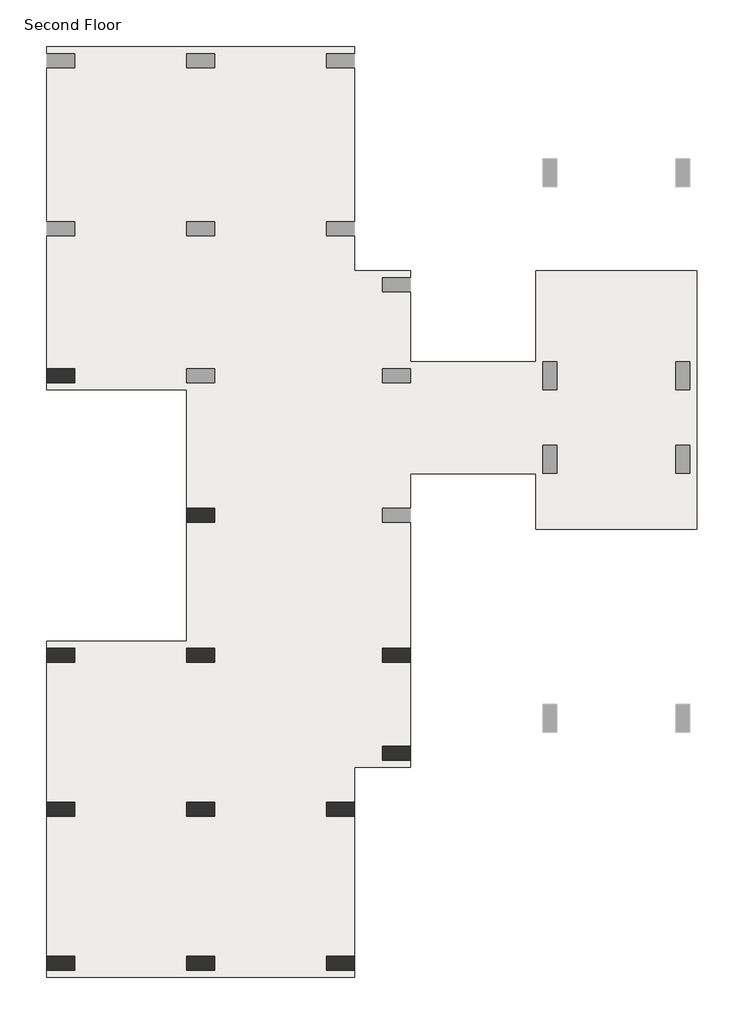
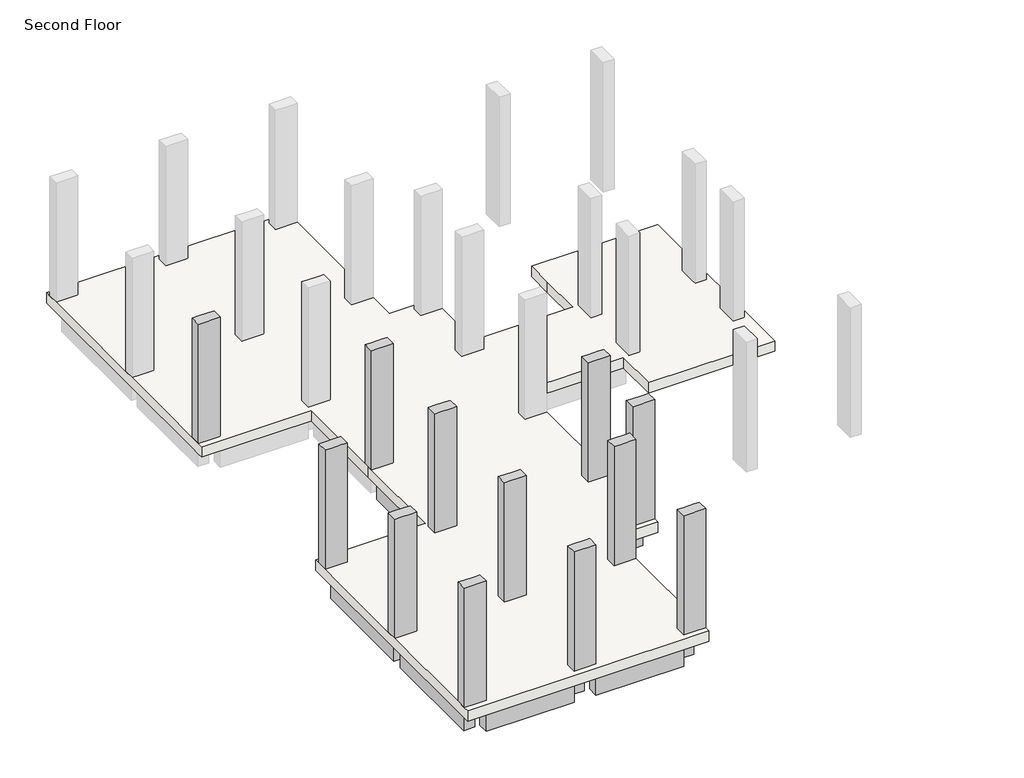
# One storey, part 1 of 2: 16 beams, 12 columns, 1 slab.
"""IFC4 building model written with IfcOpenShell, lengths in millimetres."""

from ifc_helpers import new_model, si_unit, frame, origin, place, context, project, spatial, polyline, outline, extrude, faceted_brep, element, save

model = new_model("IFC4")

# Units and contexts
model_context = context("Model", 3, world=origin())
ifc_project = project(units=[si_unit("LENGTHUNIT", "METRE", prefix="MILLI")], contexts=[model_context])

# Site, building, storey
site = spatial("IfcSite", under=ifc_project)
building = spatial("IfcBuilding", under=site)
storey = spatial("IfcBuildingStorey", under=building, Name="Second Floor", Elevation=3810.0)

# Beams
placement = place(None, origin())
element("IfcBeam", 1, ObjectType="Concrete-Rectangular Beam : 12 x 24", at=placement, inside=storey, context=model_context, shape_type="SweptSolid", body=[
    extrude(outline(polyline([(-12629.5554735, -5012.6132912), (-12629.5554735, -5317.4132912), (-15067.9554735, -5317.4132912), (-15067.9554735, -5012.6132912), (-12629.5554735, -5012.6132912)])), frame((0.0, 0.0, 2895.6), z_axis=(0.0, 0.0, 1.0), x_axis=(1.0, 0.0, 0.0)), (0.0, 0.0, 1.0), 609.6),
])
element("IfcBeam", 2, ObjectType="Concrete-Rectangular Beam : 12 x 24", at=placement, inside=storey, context=model_context, shape_type="SweptSolid", body=[
    extrude(outline(polyline([(-15525.1554735, -1964.6132912), (-15220.3554735, -1964.6132912), (-15220.3554735, -5012.6132912), (-15525.1554735, -5012.6132912), (-15525.1554735, -1964.6132912)])), frame((0.0, 0.0, 2895.6), z_axis=(0.0, 0.0, 1.0), x_axis=(1.0, 0.0, 0.0)), (0.0, 0.0, 1.0), 609.6),
])
element("IfcBeam", 3, ObjectType="Concrete-Rectangular Beam : 12 x 24", at=placement, inside=storey, context=model_context, shape_type="SweptSolid", body=[
    extrude(outline(polyline([(-15067.9554735, -1964.6132912), (-15067.9554735, -1659.8132912), (-12629.5554735, -1659.8132912), (-12629.5554735, -1964.6132912), (-15067.9554735, -1964.6132912)])), frame((0.0, 0.0, 2895.6), z_axis=(0.0, 0.0, 1.0), x_axis=(1.0, 0.0, 0.0)), (0.0, 0.0, 1.0), 609.6),
])
element("IfcBeam", 4, ObjectType="Concrete-Rectangular Beam : 12 x 24", at=placement, inside=storey, context=model_context, shape_type="SweptSolid", body=[
    extrude(outline(polyline([(-12172.3554735, -5012.6132912), (-12477.1554735, -5012.6132912), (-12477.1554735, -1964.6132912), (-12172.3554735, -1964.6132912), (-12172.3554735, -5012.6132912)])), frame((0.0, 0.0, 2895.6), z_axis=(0.0, 0.0, 1.0), x_axis=(1.0, 0.0, 0.0)), (0.0, 0.0, 1.0), 609.6),
])
element("IfcBeam", 5, ObjectType="Concrete-Rectangular Beam : 12 x 24", at=placement, inside=storey, context=model_context, shape_type="SweptSolid", body=[
    extrude(outline(polyline([(-9581.5554735, -5012.6132912), (-9581.5554735, -5317.4132912), (-12019.9554735, -5317.4132912), (-12019.9554735, -5012.6132912), (-9581.5554735, -5012.6132912)])), frame((0.0, 0.0, 2895.6), z_axis=(0.0, 0.0, 1.0), x_axis=(1.0, 0.0, 0.0)), (0.0, 0.0, 1.0), 609.6),
])
element("IfcBeam", 6, ObjectType="Concrete-Rectangular Beam : 12 x 24", at=placement, inside=storey, context=model_context, shape_type="SweptSolid", body=[
    extrude(outline(polyline([(-9124.3554735, -5012.6132912), (-9429.1554735, -5012.6132912), (-9429.1554735, -1964.6132912), (-9124.3554735, -1964.6132912), (-9124.3554735, -5012.6132912)])), frame((0.0, 0.0, 2895.6), z_axis=(0.0, 0.0, 1.0), x_axis=(1.0, 0.0, 0.0)), (0.0, 0.0, 1.0), 609.6),
])
element("IfcBeam", 7, ObjectType="Concrete-Rectangular Beam : 12 x 24", at=placement, inside=storey, context=model_context, shape_type="SweptSolid", body=[
    extrude(outline(polyline([(-9581.5554735, -1659.8132912), (-9581.5554735, -1964.6132912), (-12019.9554735, -1964.6132912), (-12019.9554735, -1659.8132912), (-9581.5554735, -1659.8132912)])), frame((0.0, 0.0, 2895.6), z_axis=(0.0, 0.0, 1.0), x_axis=(1.0, 0.0, 0.0)), (0.0, 0.0, 1.0), 609.6),
])
element("IfcBeam", 8, ObjectType="Concrete-Rectangular Beam : 12 x 24", at=placement, inside=storey, context=model_context, shape_type="Brep", body=[
    faceted_brep([(-8362.3554735, -745.4132912, 3505.2), (-8362.3554735, -440.6132912, 3505.2), (-9429.1554735, -440.6132912, 3505.2), (-9429.1554735, -745.4132912, 3505.2), (-9124.3554735, -745.4132912, 3505.2), (-8362.3554735, -440.6132912, 2895.6), (-9429.1554735, -440.6132912, 2895.6), (-8362.3554735, -745.4132912, 2895.6), (-9124.3554735, -745.4132912, 2895.6), (-9429.1554735, -745.4132912, 2895.6)], [[[0, 1, 2, 3, 4]], [[1, 5, 6, 2]], [[5, 7, 8, 9, 6]], [[7, 0, 4, 3, 9, 8]], [[0, 7, 5, 1]], [[3, 2, 6, 9]]]),
])
element("IfcBeam", 9, ObjectType="Concrete-Rectangular Beam : 12 x 24", at=placement, inside=storey, context=model_context, shape_type="SweptSolid", body=[
    extrude(outline(polyline([(-9124.3554735, -1659.8132912), (-9429.1554735, -1659.8132912), (-9429.1554735, -745.4132912), (-9124.3554735, -745.4132912), (-9124.3554735, -1659.8132912)])), frame((0.0, 0.0, 2895.6), z_axis=(0.0, 0.0, 1.0), x_axis=(1.0, 0.0, 0.0)), (0.0, 0.0, 1.0), 609.6),
])
element("IfcBeam", 10, ObjectType="Concrete-Rectangular Beam : 12 x 24", at=placement, inside=storey, context=model_context, shape_type="SweptSolid", body=[
    extrude(outline(polyline([(-8209.9554735, 1388.1867088), (-7905.1554735, 1388.1867088), (-7905.1554735, -440.6132912), (-8209.9554735, -440.6132912), (-8209.9554735, 1388.1867088)])), frame((0.0, 0.0, 2895.6), z_axis=(0.0, 0.0, 1.0), x_axis=(1.0, 0.0, 0.0)), (0.0, 0.0, 1.0), 609.6),
])
element("IfcBeam", 11, ObjectType="Concrete-Rectangular Beam : 12 x 24", at=placement, inside=storey, context=model_context, shape_type="SweptSolid", body=[
    extrude(outline(polyline([(-7905.1554735, 1692.9867088), (-8209.9554735, 1692.9867088), (-8209.9554735, 4436.1867088), (-7905.1554735, 4436.1867088), (-7905.1554735, 1692.9867088)])), frame((0.0, 0.0, 2895.6), z_axis=(0.0, 0.0, 1.0), x_axis=(1.0, 0.0, 0.0)), (0.0, 0.0, 1.0), 609.6),
])
element("IfcBeam", 12, ObjectType="Concrete-Rectangular Beam : 12 x 24", at=placement, inside=storey, context=model_context, shape_type="SweptSolid", body=[
    extrude(outline(polyline([(-15525.1554735, 1388.1867088), (-15220.3554735, 1388.1867088), (-15220.3554735, -1659.8132912), (-15525.1554735, -1659.8132912), (-15525.1554735, 1388.1867088)])), frame((0.0, 0.0, 2895.6), z_axis=(0.0, 0.0, 1.0), x_axis=(1.0, 0.0, 0.0)), (0.0, 0.0, 1.0), 609.6),
])
element("IfcBeam", 13, ObjectType="Concrete-Rectangular Beam : 12 x 24", at=placement, inside=storey, context=model_context, shape_type="SweptSolid", body=[
    extrude(outline(polyline([(-12629.5554735, 1692.9867088), (-12629.5554735, 1388.1867088), (-15067.9554735, 1388.1867088), (-15067.9554735, 1692.9867088), (-12629.5554735, 1692.9867088)])), frame((0.0, 0.0, 2895.6), z_axis=(0.0, 0.0, 1.0), x_axis=(1.0, 0.0, 0.0)), (0.0, 0.0, 1.0), 609.6),
])
element("IfcBeam", 14, ObjectType="Concrete-Rectangular Beam : 12 x 24", at=placement, inside=storey, context=model_context, shape_type="SweptSolid", body=[
    extrude(outline(polyline([(-12172.3554735, -1659.8132912), (-12477.1554735, -1659.8132912), (-12477.1554735, 1388.1867088), (-12172.3554735, 1388.1867088), (-12172.3554735, -1659.8132912)])), frame((0.0, 0.0, 2895.6), z_axis=(0.0, 0.0, 1.0), x_axis=(1.0, 0.0, 0.0)), (0.0, 0.0, 1.0), 609.6),
])
element("IfcBeam", 15, ObjectType="Concrete-Rectangular Beam : 12 x 24", at=placement, inside=storey, context=model_context, shape_type="SweptSolid", body=[
    extrude(outline(polyline([(-12019.9554735, 1388.1867088), (-12019.9554735, 1692.9867088), (-8362.3554735, 1692.9867088), (-8362.3554735, 1388.1867088), (-12019.9554735, 1388.1867088)])), frame((0.0, 0.0, 2895.6), z_axis=(0.0, 0.0, 1.0), x_axis=(1.0, 0.0, 0.0)), (0.0, 0.0, 1.0), 609.6),
])
element("IfcBeam", 16, ObjectType="Concrete-Rectangular Beam : 12 x 24", at=placement, inside=storey, context=model_context, shape_type="SweptSolid", body=[
    extrude(outline(polyline([(-12172.3554735, 1692.9867088), (-12477.1554735, 1692.9867088), (-12477.1554735, 4436.1867088), (-12172.3554735, 4436.1867088), (-12172.3554735, 1692.9867088)])), frame((0.0, 0.0, 2895.6), z_axis=(0.0, 0.0, 1.0), x_axis=(1.0, 0.0, 0.0)), (0.0, 0.0, 1.0), 609.6),
])

# Columns
element("IfcColumn", 17, ObjectType="Concrete-Rectangular-Column : 12 x 24", at=placement, inside=storey, context=model_context, shape_type="Brep", body=[
    faceted_brep([(-15677.5554735, 7788.9867088, 3810.0), (-15067.9554735, 7788.9867088, 3810.0), (-15067.9554735, 7484.1867088, 3810.0), (-15677.5554735, 7484.1867088, 3810.0), (-15677.5554735, 7788.9867088, 7315.2), (-15525.1554735, 7788.9867088, 7315.2), (-15220.3554735, 7788.9867088, 7315.2), (-15067.9554735, 7788.9867088, 7315.2), (-15067.9554735, 7788.9867088, 6705.6), (-15067.9554735, 7484.1867088, 7315.2), (-15067.9554735, 7484.1867088, 6705.6), (-15677.5554735, 7484.1867088, 7315.2)], [[[0, 1, 2, 3]], [[4, 5, 6, 7, 8, 1, 0]], [[7, 9, 10, 2, 1, 8]], [[9, 11, 3, 2, 10]], [[11, 4, 0, 3]], [[4, 11, 9, 7, 6, 5]]]),
])
element("IfcColumn", 18, ObjectType="Concrete-Rectangular-Column : 12 x 24", at=placement, inside=storey, context=model_context, shape_type="Brep", body=[
    faceted_brep([(-12629.5554735, 4740.9867088, 3810.0), (-12019.9554735, 4740.9867088, 3810.0), (-12019.9554735, 4436.1867088, 3810.0), (-12629.5554735, 4436.1867088, 3810.0), (-12629.5554735, 4588.5867088, 3810.0), (-12629.5554735, 4740.9867088, 7315.2), (-12477.1554735, 4740.9867088, 7315.2), (-12172.3554735, 4740.9867088, 7315.2), (-12019.9554735, 4740.9867088, 7315.2), (-12019.9554735, 4740.9867088, 6705.6), (-12019.9554735, 4436.1867088, 7315.2), (-12019.9554735, 4436.1867088, 6705.6), (-12172.3554735, 4436.1867088, 7315.2), (-12477.1554735, 4436.1867088, 7315.2), (-12629.5554735, 4436.1867088, 7315.2), (-12629.5554735, 4588.5867088, 7315.2)], [[[0, 1, 2, 3, 4]], [[5, 6, 7, 8, 9, 1, 0]], [[8, 10, 11, 2, 1, 9]], [[10, 12, 13, 14, 3, 2, 11]], [[14, 15, 5, 0, 4, 3]], [[5, 15, 14, 13, 12, 10, 8, 7, 6]]]),
])
element("IfcColumn", 19, ObjectType="Concrete-Rectangular-Column : 12 x 24", at=placement, inside=storey, context=model_context, shape_type="Brep", body=[
    faceted_brep([(-15677.5554735, 1692.9867088, 3810.0), (-15067.9554735, 1692.9867088, 3810.0), (-15067.9554735, 1388.1867088, 3810.0), (-15677.5554735, 1388.1867088, 3810.0), (-15677.5554735, 1692.9867088, 7315.2), (-15067.9554735, 1692.9867088, 7315.2), (-15067.9554735, 1692.9867088, 6705.6), (-15067.9554735, 1388.1867088, 7315.2), (-15067.9554735, 1388.1867088, 6705.6), (-15220.3554735, 1388.1867088, 7315.2), (-15525.1554735, 1388.1867088, 7315.2), (-15677.5554735, 1388.1867088, 7315.2)], [[[0, 1, 2, 3]], [[4, 5, 6, 1, 0]], [[5, 7, 8, 2, 1, 6]], [[7, 9, 10, 11, 3, 2, 8]], [[11, 4, 0, 3]], [[4, 11, 10, 9, 7, 5]]]),
])
element("IfcColumn", 20, ObjectType="Concrete-Rectangular-Column : 12 x 24", at=placement, inside=storey, context=model_context, shape_type="Brep", body=[
    faceted_brep([(-12629.5554735, 1692.9867088, 3810.0), (-12019.9554735, 1692.9867088, 3810.0), (-12019.9554735, 1388.1867088, 3810.0), (-12629.5554735, 1388.1867088, 3810.0), (-12629.5554735, 1692.9867088, 7315.2), (-12477.1554735, 1692.9867088, 7315.2), (-12172.3554735, 1692.9867088, 7315.2), (-12019.9554735, 1692.9867088, 7315.2), (-12019.9554735, 1692.9867088, 6705.6), (-12629.5554735, 1692.9867088, 6705.6), (-12019.9554735, 1388.1867088, 7315.2), (-12019.9554735, 1388.1867088, 6705.6), (-12172.3554735, 1388.1867088, 7315.2), (-12477.1554735, 1388.1867088, 7315.2), (-12629.5554735, 1388.1867088, 7315.2), (-12629.5554735, 1388.1867088, 6705.6)], [[[0, 1, 2, 3]], [[4, 5, 6, 7, 8, 1, 0, 9]], [[7, 10, 11, 2, 1, 8]], [[10, 12, 13, 14, 15, 3, 2, 11]], [[14, 4, 9, 0, 3, 15]], [[4, 14, 13, 12, 10, 7, 6, 5]]]),
])
element("IfcColumn", 21, ObjectType="Concrete-Rectangular-Column : 12 x 24", at=placement, inside=storey, context=model_context, shape_type="Brep", body=[
    faceted_brep([(-8362.3554735, 1692.9867088, 3810.0), (-7752.7554735, 1692.9867088, 3810.0), (-7752.7554735, 1388.1867088, 3810.0), (-8362.3554735, 1388.1867088, 3810.0), (-8362.3554735, 1692.9867088, 7315.2), (-8209.9554735, 1692.9867088, 7315.2), (-7905.1554735, 1692.9867088, 7315.2), (-7752.7554735, 1692.9867088, 7315.2), (-8362.3554735, 1692.9867088, 6705.6), (-7752.7554735, 1388.1867088, 7315.2), (-7905.1554735, 1388.1867088, 7315.2), (-8209.9554735, 1388.1867088, 7315.2), (-8362.3554735, 1388.1867088, 7315.2), (-8362.3554735, 1388.1867088, 6705.6)], [[[0, 1, 2, 3]], [[4, 5, 6, 7, 1, 0, 8]], [[7, 9, 2, 1]], [[9, 10, 11, 12, 13, 3, 2]], [[12, 4, 8, 0, 3, 13]], [[4, 12, 11, 10, 9, 7, 6, 5]]]),
])
element("IfcColumn", 22, ObjectType="Concrete-Rectangular-Column : 12 x 24", at=placement, inside=storey, context=model_context, shape_type="Brep", body=[
    faceted_brep([(-8362.3554735, -440.6132912, 3810.0), (-7752.7554735, -440.6132912, 3810.0), (-7752.7554735, -745.4132912, 3810.0), (-8362.3554735, -745.4132912, 3810.0), (-8362.3554735, -440.6132912, 7315.2), (-8209.9554735, -440.6132912, 7315.2), (-7905.1554735, -440.6132912, 7315.2), (-7752.7554735, -440.6132912, 7315.2), (-8362.3554735, -440.6132912, 6705.6), (-7752.7554735, -745.4132912, 7315.2), (-8362.3554735, -745.4132912, 7315.2), (-8362.3554735, -745.4132912, 6705.6)], [[[0, 1, 2, 3]], [[4, 5, 6, 7, 1, 0, 8]], [[7, 9, 2, 1]], [[9, 10, 11, 3, 2]], [[10, 4, 8, 0, 3, 11]], [[4, 10, 9, 7, 6, 5]]]),
])
element("IfcColumn", 23, ObjectType="Concrete-Rectangular-Column : 12 x 24", at=placement, inside=storey, context=model_context, shape_type="Brep", body=[
    faceted_brep([(-15677.5554735, -1659.8132912, 3810.0), (-15067.9554735, -1659.8132912, 3810.0), (-15067.9554735, -1964.6132912, 3810.0), (-15677.5554735, -1964.6132912, 3810.0), (-15677.5554735, -1659.8132912, 7315.2), (-15525.1554735, -1659.8132912, 7315.2), (-15220.3554735, -1659.8132912, 7315.2), (-15067.9554735, -1659.8132912, 7315.2), (-15067.9554735, -1659.8132912, 6705.6), (-15067.9554735, -1964.6132912, 7315.2), (-15067.9554735, -1964.6132912, 6705.6), (-15220.3554735, -1964.6132912, 7315.2), (-15525.1554735, -1964.6132912, 7315.2), (-15677.5554735, -1964.6132912, 7315.2)], [[[0, 1, 2, 3]], [[4, 5, 6, 7, 8, 1, 0]], [[7, 9, 10, 2, 1, 8]], [[9, 11, 12, 13, 3, 2, 10]], [[13, 4, 0, 3]], [[4, 13, 12, 11, 9, 7, 6, 5]]]),
])
element("IfcColumn", 24, ObjectType="Concrete-Rectangular-Column : 12 x 24", at=placement, inside=storey, context=model_context, shape_type="Brep", body=[
    faceted_brep([(-12629.5554735, -1659.8132912, 3810.0), (-12019.9554735, -1659.8132912, 3810.0), (-12019.9554735, -1964.6132912, 3810.0), (-12629.5554735, -1964.6132912, 3810.0), (-12629.5554735, -1659.8132912, 7315.2), (-12477.1554735, -1659.8132912, 7315.2), (-12172.3554735, -1659.8132912, 7315.2), (-12019.9554735, -1659.8132912, 7315.2), (-12019.9554735, -1659.8132912, 6705.6), (-12629.5554735, -1659.8132912, 6705.6), (-12019.9554735, -1964.6132912, 7315.2), (-12019.9554735, -1964.6132912, 6705.6), (-12172.3554735, -1964.6132912, 7315.2), (-12477.1554735, -1964.6132912, 7315.2), (-12629.5554735, -1964.6132912, 7315.2), (-12629.5554735, -1964.6132912, 6705.6)], [[[0, 1, 2, 3]], [[4, 5, 6, 7, 8, 1, 0, 9]], [[7, 10, 11, 2, 1, 8]], [[10, 12, 13, 14, 15, 3, 2, 11]], [[14, 4, 9, 0, 3, 15]], [[4, 14, 13, 12, 10, 7, 6, 5]]]),
])
element("IfcColumn", 25, ObjectType="Concrete-Rectangular-Column : 12 x 24", at=placement, inside=storey, context=model_context, shape_type="Brep", body=[
    faceted_brep([(-9581.5554735, -1659.8132912, 3810.0), (-8971.9554735, -1659.8132912, 3810.0), (-8971.9554735, -1964.6132912, 3810.0), (-9581.5554735, -1964.6132912, 3810.0), (-9581.5554735, -1659.8132912, 7315.2), (-9429.1554735, -1659.8132912, 7315.2), (-9124.3554735, -1659.8132912, 7315.2), (-8971.9554735, -1659.8132912, 7315.2), (-9581.5554735, -1659.8132912, 6705.6), (-8971.9554735, -1964.6132912, 7315.2), (-9124.3554735, -1964.6132912, 7315.2), (-9429.1554735, -1964.6132912, 7315.2), (-9581.5554735, -1964.6132912, 7315.2), (-9581.5554735, -1964.6132912, 6705.6)], [[[0, 1, 2, 3]], [[4, 5, 6, 7, 1, 0, 8]], [[7, 9, 2, 1]], [[9, 10, 11, 12, 13, 3, 2]], [[12, 4, 8, 0, 3, 13]], [[4, 12, 11, 10, 9, 7, 6, 5]]]),
])
element("IfcColumn", 26, ObjectType="Concrete-Rectangular-Column : 12 x 24", at=placement, inside=storey, context=model_context, shape_type="Brep", body=[
    faceted_brep([(-15677.5554735, -5012.6132912, 3810.0), (-15067.9554735, -5012.6132912, 3810.0), (-15067.9554735, -5317.4132912, 3810.0), (-15677.5554735, -5317.4132912, 3810.0), (-15677.5554735, -5012.6132912, 7315.2), (-15525.1554735, -5012.6132912, 7315.2), (-15220.3554735, -5012.6132912, 7315.2), (-15067.9554735, -5012.6132912, 7315.2), (-15067.9554735, -5012.6132912, 6705.6), (-15067.9554735, -5317.4132912, 7315.2), (-15067.9554735, -5317.4132912, 6705.6), (-15677.5554735, -5317.4132912, 7315.2)], [[[0, 1, 2, 3]], [[4, 5, 6, 7, 8, 1, 0]], [[7, 9, 10, 2, 1, 8]], [[9, 11, 3, 2, 10]], [[11, 4, 0, 3]], [[4, 11, 9, 7, 6, 5]]]),
])
element("IfcColumn", 27, ObjectType="Concrete-Rectangular-Column : 12 x 24", at=placement, inside=storey, context=model_context, shape_type="Brep", body=[
    faceted_brep([(-12629.5554735, -5012.6132912, 3810.0), (-12019.9554735, -5012.6132912, 3810.0), (-12019.9554735, -5317.4132912, 3810.0), (-12629.5554735, -5317.4132912, 3810.0), (-12629.5554735, -5012.6132912, 7315.2), (-12477.1554735, -5012.6132912, 7315.2), (-12172.3554735, -5012.6132912, 7315.2), (-12019.9554735, -5012.6132912, 7315.2), (-12019.9554735, -5012.6132912, 6705.6), (-12629.5554735, -5012.6132912, 6705.6), (-12019.9554735, -5317.4132912, 7315.2), (-12019.9554735, -5317.4132912, 6705.6), (-12629.5554735, -5317.4132912, 7315.2), (-12629.5554735, -5317.4132912, 6705.6)], [[[0, 1, 2, 3]], [[4, 5, 6, 7, 8, 1, 0, 9]], [[7, 10, 11, 2, 1, 8]], [[10, 12, 13, 3, 2, 11]], [[12, 4, 9, 0, 3, 13]], [[4, 12, 10, 7, 6, 5]]]),
])
element("IfcColumn", 28, ObjectType="Concrete-Rectangular-Column : 12 x 24", at=placement, inside=storey, context=model_context, shape_type="Brep", body=[
    faceted_brep([(-9581.5554735, -5012.6132912, 3810.0), (-8971.9554735, -5012.6132912, 3810.0), (-8971.9554735, -5317.4132912, 3810.0), (-9581.5554735, -5317.4132912, 3810.0), (-9581.5554735, -5012.6132912, 7315.2), (-9429.1554735, -5012.6132912, 7315.2), (-9124.3554735, -5012.6132912, 7315.2), (-8971.9554735, -5012.6132912, 7315.2), (-9581.5554735, -5012.6132912, 6705.6), (-8971.9554735, -5317.4132912, 7315.2), (-9581.5554735, -5317.4132912, 7315.2), (-9581.5554735, -5317.4132912, 6705.6)], [[[0, 1, 2, 3]], [[4, 5, 6, 7, 1, 0, 8]], [[7, 9, 2, 1]], [[9, 10, 11, 3, 2]], [[10, 4, 8, 0, 3, 11]], [[4, 10, 9, 7, 6, 5]]]),
])

# Slab
element("IfcSlab", 29, ObjectType="Generic - 12\"", at=placement, inside=storey, context=model_context, shape_type="Brep", body=[
    faceted_brep([(-8971.9554735, 14799.3867088, 3505.2), (-8971.9554735, 14646.9867088, 3505.2), (-8971.9554735, 14342.1867088, 3505.2), (-8971.9554735, 10989.3867088, 3505.2), (-8971.9554735, 10684.5867088, 3505.2), (-8971.9554735, 9922.5867088, 3505.2), (-7752.7554735, 9922.5867088, 3505.2), (-7752.7554735, 9770.1867088, 3505.2), (-7752.7554735, 9465.3867088, 3505.2), (-7752.7554735, 7941.3867088, 3505.2), (-5009.5554735, 7941.3867088, 3505.2), (-5009.5554735, 9160.5867088, 3505.2), (-5009.5554735, 9922.5867088, 3505.2), (-1504.3554735, 9922.5867088, 3505.2), (-1504.3554735, 4283.7867088, 3505.2), (-5009.5554735, 4283.7867088, 3505.2), (-5009.5554735, 5502.9867088, 3505.2), (-7752.7554735, 5502.9867088, 3505.2), (-7752.7554735, 4740.9867088, 3505.2), (-7752.7554735, 4436.1867088, 3505.2), (-7752.7554735, 1692.9867088, 3505.2), (-7752.7554735, 1388.1867088, 3505.2), (-7752.7554735, -440.6132912, 3505.2), (-7752.7554735, -745.4132912, 3505.2), (-7752.7554735, -897.8132912, 3505.2), (-8971.9554735, -897.8132912, 3505.2), (-8971.9554735, -1659.8132912, 3505.2), (-8971.9554735, -1964.6132912, 3505.2), (-8971.9554735, -5012.6132912, 3505.2), (-8971.9554735, -5317.4132912, 3505.2), (-8971.9554735, -5469.8132912, 3505.2), (-15677.5554735, -5469.8132912, 3505.2), (-15677.5554735, -5317.4132912, 3505.2), (-15677.5554735, -5012.6132912, 3505.2), (-15677.5554735, -1964.6132912, 3505.2), (-15677.5554735, -1659.8132912, 3505.2), (-15677.5554735, 1388.1867088, 3505.2), (-15677.5554735, 1692.9867088, 3505.2), (-15677.5554735, 1845.3867088, 3505.2), (-12629.5554735, 1845.3867088, 3505.2), (-12629.5554735, 4436.1867088, 3505.2), (-12629.5554735, 4588.5867088, 3505.2), (-12629.5554735, 4740.9867088, 3505.2), (-12629.5554735, 7331.7867088, 3505.2), (-15677.5554735, 7331.7867088, 3505.2), (-15677.5554735, 7484.1867088, 3505.2), (-15677.5554735, 7788.9867088, 3505.2), (-15677.5554735, 10684.5867088, 3505.2), (-15677.5554735, 10989.3867088, 3505.2), (-15677.5554735, 14342.1867088, 3505.2), (-15677.5554735, 14646.9867088, 3505.2), (-15677.5554735, 14799.3867088, 3505.2), (-8971.9554735, 14799.3867088, 3810.0), (-15677.5554735, 14799.3867088, 3810.0), (-15677.5554735, 14646.9867088, 3810.0), (-15677.5554735, 14342.1867088, 3810.0), (-15677.5554735, 10989.3867088, 3810.0), (-15677.5554735, 10684.5867088, 3810.0), (-15677.5554735, 7788.9867088, 3810.0), (-15677.5554735, 7484.1867088, 3810.0), (-15677.5554735, 7331.7867088, 3810.0), (-12629.5554735, 7331.7867088, 3810.0), (-12629.5554735, 4740.9867088, 3810.0), (-12629.5554735, 4588.5867088, 3810.0), (-12629.5554735, 4436.1867088, 3810.0), (-12629.5554735, 1845.3867088, 3810.0), (-15677.5554735, 1845.3867088, 3810.0), (-15677.5554735, 1692.9867088, 3810.0), (-15677.5554735, 1388.1867088, 3810.0), (-15677.5554735, -1659.8132912, 3810.0), (-15677.5554735, -1964.6132912, 3810.0), (-15677.5554735, -5012.6132912, 3810.0), (-15677.5554735, -5317.4132912, 3810.0), (-15677.5554735, -5469.8132912, 3810.0), (-8971.9554735, -5469.8132912, 3810.0), (-8971.9554735, -5317.4132912, 3810.0), (-8971.9554735, -5012.6132912, 3810.0), (-8971.9554735, -1964.6132912, 3810.0), (-8971.9554735, -1659.8132912, 3810.0), (-8971.9554735, -897.8132912, 3810.0), (-7752.7554735, -897.8132912, 3810.0), (-7752.7554735, -745.4132912, 3810.0), (-7752.7554735, -440.6132912, 3810.0), (-7752.7554735, 1388.1867088, 3810.0), (-7752.7554735, 1692.9867088, 3810.0), (-7752.7554735, 4436.1867088, 3810.0), (-7752.7554735, 4740.9867088, 3810.0), (-7752.7554735, 5502.9867088, 3810.0), (-5009.5554735, 5502.9867088, 3810.0), (-5009.5554735, 4283.7867088, 3810.0), (-1504.3554735, 4283.7867088, 3810.0), (-1504.3554735, 9922.5867088, 3810.0), (-5009.5554735, 9922.5867088, 3810.0), (-5009.5554735, 9160.5867088, 3810.0), (-5009.5554735, 7941.3867088, 3810.0), (-7752.7554735, 7941.3867088, 3810.0), (-7752.7554735, 9465.3867088, 3810.0), (-7752.7554735, 9770.1867088, 3810.0), (-7752.7554735, 9922.5867088, 3810.0), (-8971.9554735, 9922.5867088, 3810.0), (-8971.9554735, 10684.5867088, 3810.0), (-8971.9554735, 10989.3867088, 3810.0), (-8971.9554735, 14342.1867088, 3810.0), (-8971.9554735, 14646.9867088, 3810.0)], [[[0, 1, 2, 3, 4, 5, 6, 7, 8, 9, 10, 11, 12, 13, 14, 15, 16, 17, 18, 19, 20, 21, 22, 23, 24, 25, 26, 27, 28, 29, 30, 31, 32, 33, 34, 35, 36, 37, 38, 39, 40, 41, 42, 43, 44, 45, 46, 47, 48, 49, 50, 51]], [[52, 53, 54, 55, 56, 57, 58, 59, 60, 61, 62, 63, 64, 65, 66, 67, 68, 69, 70, 71, 72, 73, 74, 75, 76, 77, 78, 79, 80, 81, 82, 83, 84, 85, 86, 87, 88, 89, 90, 91, 92, 93, 94, 95, 96, 97, 98, 99, 100, 101, 102, 103]], [[5, 4, 3, 2, 1, 0, 52, 103, 102, 101, 100, 99]], [[6, 5, 99, 98]], [[9, 8, 7, 6, 98, 97, 96, 95]], [[10, 9, 95, 94]], [[11, 10, 94, 93]], [[12, 11, 93, 92]], [[13, 12, 92, 91]], [[14, 13, 91, 90]], [[15, 14, 90, 89]], [[16, 15, 89, 88]], [[17, 16, 88, 87]], [[24, 23, 22, 21, 20, 19, 18, 17, 87, 86, 85, 84, 83, 82, 81, 80]], [[25, 24, 80, 79]], [[30, 29, 28, 27, 26, 25, 79, 78, 77, 76, 75, 74]], [[31, 30, 74, 73]], [[38, 37, 36, 35, 34, 33, 32, 31, 73, 72, 71, 70, 69, 68, 67, 66]], [[39, 38, 66, 65]], [[41, 40, 39, 65, 64, 63]], [[43, 42, 41, 63, 62, 61]], [[44, 43, 61, 60]], [[51, 50, 49, 48, 47, 46, 45, 44, 60, 59, 58, 57, 56, 55, 54, 53]], [[0, 51, 53, 52]]]),
])

save(model, "model.ifc")
